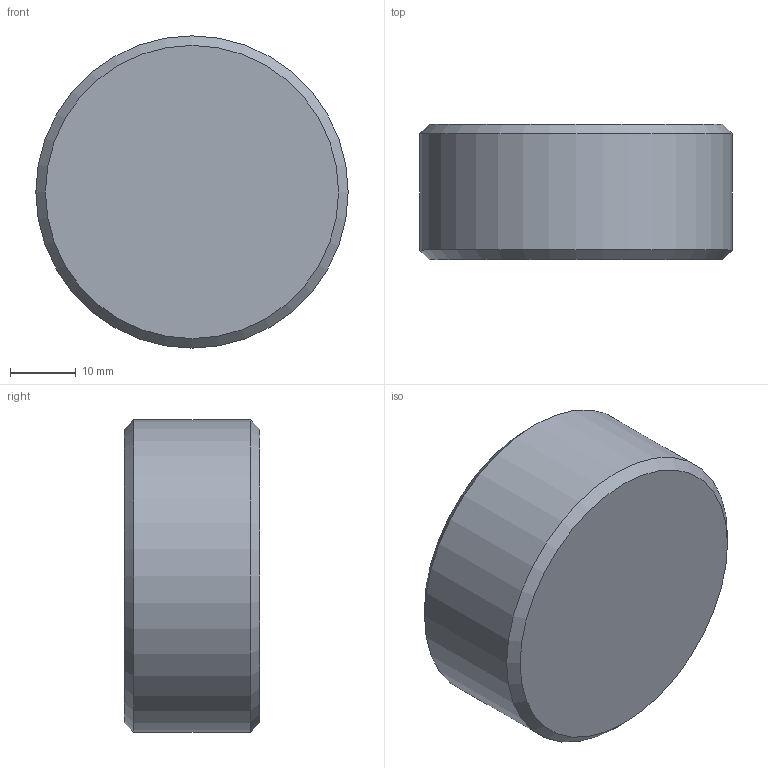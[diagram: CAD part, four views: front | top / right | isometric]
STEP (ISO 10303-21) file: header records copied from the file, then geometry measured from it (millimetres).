
FILE_DESCRIPTION(/* description */ (''),/* implementation_level */ '2;1');
FILE_NAME(/* name */ 'C:/Users/drich/Desktop/cad/Plugs/NPT Pipe Plugs/Dry Seal 3_4 Taper/Steel/SD-1-1_2 v1.step',/* time_stamp */ '2020-01-10T11:26:47-06:00',/* author */ (''),/* organization */ (''),/* preprocessor_version */ 'ST-DEVELOPER v18',/* originating_system */ 'Autodesk Translation Framework v8.12.0.6',/* authorisation */ '');
FILE_SCHEMA (('AUTOMOTIVE_DESIGN { 1 0 10303 214 3 1 1 }'));
Length unit declared in the file: inch
Products named in the file (1): SD-1-1_2
Bounding box: 47.62 x 20.62 x 47.62 mm (x, y, z)
Volume: 32771.9 mm3; surface area: 7093.2 mm2
Topology: 1 solids, 1 shells, 13 faces, 35 edges, 25 vertices
Faces by surface type: plane 9, cone 3, cylinder 1
Full cylindrical faces by diameter (mm): 47.623 x1
Entity records: 439 total; most frequent: CARTESIAN_POINT 98, ORIENTED_EDGE 70, DIRECTION 58, EDGE_CURVE 35, VERTEX_POINT 25, AXIS2_PLACEMENT_3D 21, LINE 16, VECTOR 16
